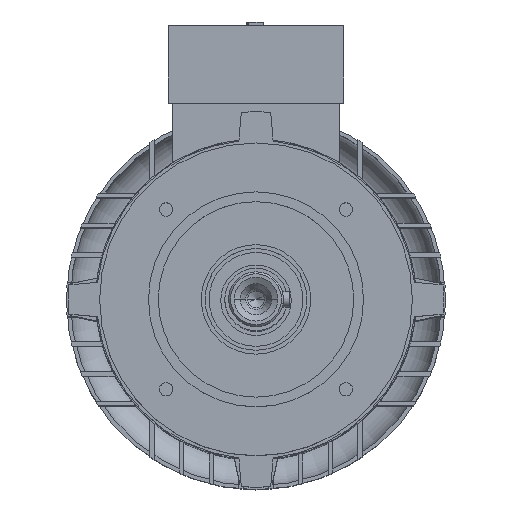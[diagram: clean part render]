
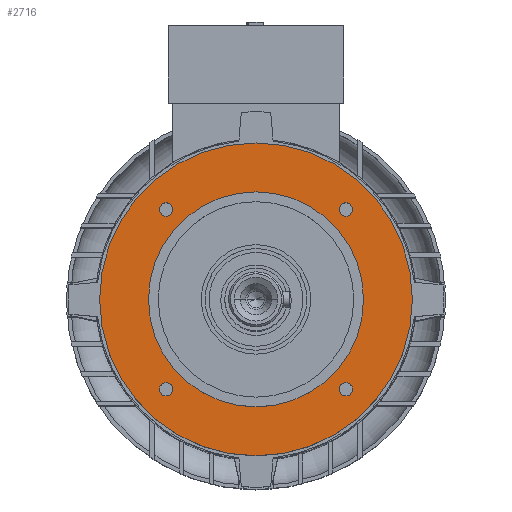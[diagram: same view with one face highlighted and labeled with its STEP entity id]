
A CAD part, top view. The second image highlights one B-rep face of the part: STEP entity #2716.
In plain terms, the highlighted planar face has unit normal (0, 0, 1).
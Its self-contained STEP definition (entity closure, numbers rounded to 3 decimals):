
#44 = EDGE_LOOP ( 'NONE', ( #1963, #10231 ) ) ;
#53 = CIRCLE ( 'NONE', #10097, 55. ) ;
#190 = DIRECTION ( 'NONE',  ( 0., 0., 1. ) ) ;
#274 = EDGE_CURVE ( 'NONE', #6597, #5938, #12828, .T. ) ;
#392 = ORIENTED_EDGE ( 'NONE', *, *, #1925, .F. ) ;
#526 = EDGE_LOOP ( 'NONE', ( #5951, #392 ) ) ;
#582 = DIRECTION ( 'NONE',  ( 0., 0., 1. ) ) ;
#592 = AXIS2_PLACEMENT_3D ( 'NONE', #2939, #13825, #7321 ) ;
#623 = DIRECTION ( 'NONE',  ( 0., 0., 1. ) ) ;
#1088 = DIRECTION ( 'NONE',  ( -1., 0., 0. ) ) ;
#1186 = AXIS2_PLACEMENT_3D ( 'NONE', #3081, #6318, #9653 ) ;
#1223 = AXIS2_PLACEMENT_3D ( 'NONE', #2017, #8553, #12822 ) ;
#1224 = CARTESIAN_POINT ( 'NONE',  ( 0., 0., 133. ) ) ;
#1276 = EDGE_CURVE ( 'NONE', #9577, #7409, #10079, .T. ) ;
#1338 = DIRECTION ( 'NONE',  ( -1., 0., 0. ) ) ;
#1925 = EDGE_CURVE ( 'NONE', #11412, #7957, #3445, .T. ) ;
#1936 = CIRCLE ( 'NONE', #12332, 3.4 ) ;
#1963 = ORIENTED_EDGE ( 'NONE', *, *, #2391, .F. ) ;
#1975 = EDGE_CURVE ( 'NONE', #7990, #8046, #3087, .T. ) ;
#2017 = CARTESIAN_POINT ( 'NONE',  ( -45.962, 45.962, 133. ) ) ;
#2044 = AXIS2_PLACEMENT_3D ( 'NONE', #1224, #4351, #1088 ) ;
#2162 = ORIENTED_EDGE ( 'NONE', *, *, #1975, .F. ) ;
#2285 = CARTESIAN_POINT ( 'NONE',  ( 42.562, 45.962, 133. ) ) ;
#2391 = EDGE_CURVE ( 'NONE', #11802, #3417, #8358, .T. ) ;
#2545 = CARTESIAN_POINT ( 'NONE',  ( -42.562, -45.962, 133. ) ) ;
#2716 = ADVANCED_FACE ( 'NONE', ( #2896, #5971, #11236, #6135, #11586, #8698 ), #4841, .T. ) ;
#2783 = CARTESIAN_POINT ( 'NONE',  ( 49.362, -45.962, 133. ) ) ;
#2866 = ORIENTED_EDGE ( 'NONE', *, *, #11392, .T. ) ;
#2896 = FACE_BOUND ( 'NONE', #8498, .T. ) ;
#2939 = CARTESIAN_POINT ( 'NONE',  ( 0., 0., 133. ) ) ;
#3034 = CARTESIAN_POINT ( 'NONE',  ( -49.362, 45.962, 133. ) ) ;
#3081 = CARTESIAN_POINT ( 'NONE',  ( -45.962, 45.962, 133. ) ) ;
#3087 = CIRCLE ( 'NONE', #6730, 3.4 ) ;
#3417 = VERTEX_POINT ( 'NONE', #3034 ) ;
#3445 = CIRCLE ( 'NONE', #2044, 80. ) ;
#3777 = CIRCLE ( 'NONE', #1223, 3.4 ) ;
#3863 = CARTESIAN_POINT ( 'NONE',  ( -45.962, -45.962, 133. ) ) ;
#4351 = DIRECTION ( 'NONE',  ( 0., 0., -1. ) ) ;
#4585 = CARTESIAN_POINT ( 'NONE',  ( 55., 0., 133. ) ) ;
#4827 = DIRECTION ( 'NONE',  ( 0., 0., 1. ) ) ;
#4841 = PLANE ( 'NONE',  #10831 ) ;
#5332 = CARTESIAN_POINT ( 'NONE',  ( -49.362, -45.962, 133. ) ) ;
#5370 = VERTEX_POINT ( 'NONE', #7513 ) ;
#5477 = CARTESIAN_POINT ( 'NONE',  ( -42.562, 45.962, 133. ) ) ;
#5602 = ORIENTED_EDGE ( 'NONE', *, *, #8377, .F. ) ;
#5663 = EDGE_CURVE ( 'NONE', #7957, #11412, #8791, .T. ) ;
#5831 = EDGE_CURVE ( 'NONE', #5938, #6597, #13042, .T. ) ;
#5938 = VERTEX_POINT ( 'NONE', #2545 ) ;
#5951 = ORIENTED_EDGE ( 'NONE', *, *, #5663, .F. ) ;
#5971 = FACE_BOUND ( 'NONE', #8239, .T. ) ;
#6038 = DIRECTION ( 'NONE',  ( 1., 0., 0. ) ) ;
#6063 = ORIENTED_EDGE ( 'NONE', *, *, #13100, .T. ) ;
#6105 = AXIS2_PLACEMENT_3D ( 'NONE', #3863, #623, #10320 ) ;
#6135 = FACE_BOUND ( 'NONE', #44, .T. ) ;
#6307 = CARTESIAN_POINT ( 'NONE',  ( 49.362, 45.962, 133. ) ) ;
#6310 = EDGE_CURVE ( 'NONE', #3417, #11802, #3777, .T. ) ;
#6318 = DIRECTION ( 'NONE',  ( 0., 0., 1. ) ) ;
#6320 = ORIENTED_EDGE ( 'NONE', *, *, #5831, .F. ) ;
#6597 = VERTEX_POINT ( 'NONE', #5332 ) ;
#6730 = AXIS2_PLACEMENT_3D ( 'NONE', #12090, #190, #7668 ) ;
#7321 = DIRECTION ( 'NONE',  ( -1., 0., 0. ) ) ;
#7409 = VERTEX_POINT ( 'NONE', #2285 ) ;
#7513 = CARTESIAN_POINT ( 'NONE',  ( -55., 0., 133. ) ) ;
#7668 = DIRECTION ( 'NONE',  ( 1., 0., 0. ) ) ;
#7957 = VERTEX_POINT ( 'NONE', #8151 ) ;
#7990 = VERTEX_POINT ( 'NONE', #2783 ) ;
#8022 = DIRECTION ( 'NONE',  ( 0., 0., -1. ) ) ;
#8046 = VERTEX_POINT ( 'NONE', #10489 ) ;
#8151 = CARTESIAN_POINT ( 'NONE',  ( -80., 0., 133. ) ) ;
#8239 = EDGE_LOOP ( 'NONE', ( #2162, #5602 ) ) ;
#8299 = DIRECTION ( 'NONE',  ( 0., 0., 1. ) ) ;
#8358 = CIRCLE ( 'NONE', #1186, 3.4 ) ;
#8377 = EDGE_CURVE ( 'NONE', #8046, #7990, #1936, .T. ) ;
#8498 = EDGE_LOOP ( 'NONE', ( #6320, #10180 ) ) ;
#8553 = DIRECTION ( 'NONE',  ( 0., 0., 1. ) ) ;
#8698 = FACE_OUTER_BOUND ( 'NONE', #526, .T. ) ;
#8791 = CIRCLE ( 'NONE', #592, 80. ) ;
#8923 = VERTEX_POINT ( 'NONE', #4585 ) ;
#8951 = DIRECTION ( 'NONE',  ( 1., 0., 0. ) ) ;
#9118 = CIRCLE ( 'NONE', #10930, 3.4 ) ;
#9231 = DIRECTION ( 'NONE',  ( 1., 0., 0. ) ) ;
#9458 = DIRECTION ( 'NONE',  ( 0., 0., 1. ) ) ;
#9577 = VERTEX_POINT ( 'NONE', #6307 ) ;
#9653 = DIRECTION ( 'NONE',  ( 1., 0., 0. ) ) ;
#9657 = CIRCLE ( 'NONE', #11743, 55. ) ;
#10079 = CIRCLE ( 'NONE', #11971, 3.4 ) ;
#10097 = AXIS2_PLACEMENT_3D ( 'NONE', #11311, #8022, #10112 ) ;
#10112 = DIRECTION ( 'NONE',  ( -1., 0., 0. ) ) ;
#10180 = ORIENTED_EDGE ( 'NONE', *, *, #274, .F. ) ;
#10231 = ORIENTED_EDGE ( 'NONE', *, *, #6310, .F. ) ;
#10320 = DIRECTION ( 'NONE',  ( 1., 0., 0. ) ) ;
#10387 = DIRECTION ( 'NONE',  ( 1., 0., 0. ) ) ;
#10489 = CARTESIAN_POINT ( 'NONE',  ( 42.562, -45.962, 133. ) ) ;
#10758 = DIRECTION ( 'NONE',  ( 1., 0., 0. ) ) ;
#10831 = AXIS2_PLACEMENT_3D ( 'NONE', #11445, #8299, #10387 ) ;
#10839 = ORIENTED_EDGE ( 'NONE', *, *, #11804, .F. ) ;
#10901 = CARTESIAN_POINT ( 'NONE',  ( 45.962, 45.962, 133. ) ) ;
#10930 = AXIS2_PLACEMENT_3D ( 'NONE', #10901, #11903, #10758 ) ;
#11065 = DIRECTION ( 'NONE',  ( 0., 0., -1. ) ) ;
#11148 = CARTESIAN_POINT ( 'NONE',  ( 45.962, -45.962, 133. ) ) ;
#11236 = FACE_BOUND ( 'NONE', #12655, .T. ) ;
#11311 = CARTESIAN_POINT ( 'NONE',  ( 0., 0., 133. ) ) ;
#11319 = EDGE_LOOP ( 'NONE', ( #2866, #6063 ) ) ;
#11392 = EDGE_CURVE ( 'NONE', #5370, #8923, #9657, .T. ) ;
#11412 = VERTEX_POINT ( 'NONE', #13198 ) ;
#11445 = CARTESIAN_POINT ( 'NONE',  ( 0., 55., 133. ) ) ;
#11586 = FACE_BOUND ( 'NONE', #11319, .T. ) ;
#11743 = AXIS2_PLACEMENT_3D ( 'NONE', #13110, #11065, #1338 ) ;
#11802 = VERTEX_POINT ( 'NONE', #5477 ) ;
#11804 = EDGE_CURVE ( 'NONE', #7409, #9577, #9118, .T. ) ;
#11903 = DIRECTION ( 'NONE',  ( 0., 0., 1. ) ) ;
#11971 = AXIS2_PLACEMENT_3D ( 'NONE', #13685, #9458, #6038 ) ;
#12090 = CARTESIAN_POINT ( 'NONE',  ( 45.962, -45.962, 133. ) ) ;
#12332 = AXIS2_PLACEMENT_3D ( 'NONE', #11148, #4827, #8951 ) ;
#12655 = EDGE_LOOP ( 'NONE', ( #13319, #10839 ) ) ;
#12822 = DIRECTION ( 'NONE',  ( 1., 0., 0. ) ) ;
#12828 = CIRCLE ( 'NONE', #6105, 3.4 ) ;
#13042 = CIRCLE ( 'NONE', #13666, 3.4 ) ;
#13100 = EDGE_CURVE ( 'NONE', #8923, #5370, #53, .T. ) ;
#13110 = CARTESIAN_POINT ( 'NONE',  ( 0., 0., 133. ) ) ;
#13198 = CARTESIAN_POINT ( 'NONE',  ( 80., 0., 133. ) ) ;
#13319 = ORIENTED_EDGE ( 'NONE', *, *, #1276, .F. ) ;
#13554 = CARTESIAN_POINT ( 'NONE',  ( -45.962, -45.962, 133. ) ) ;
#13666 = AXIS2_PLACEMENT_3D ( 'NONE', #13554, #582, #9231 ) ;
#13685 = CARTESIAN_POINT ( 'NONE',  ( 45.962, 45.962, 133. ) ) ;
#13825 = DIRECTION ( 'NONE',  ( 0., 0., -1. ) ) ;
